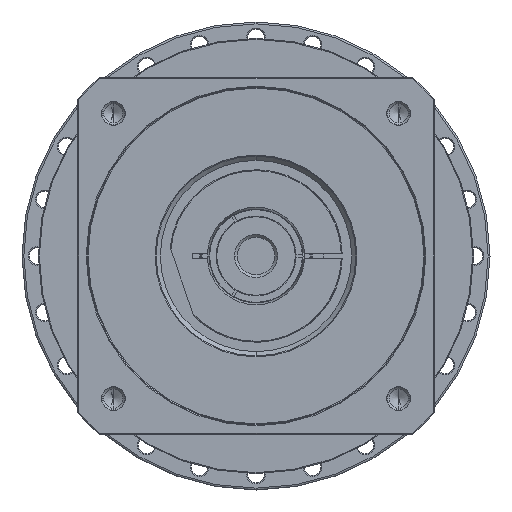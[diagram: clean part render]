
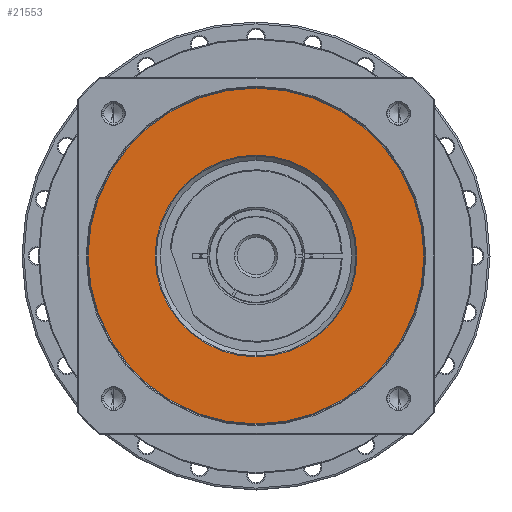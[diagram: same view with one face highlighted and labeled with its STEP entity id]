
A CAD part, left-side view. The second image highlights one B-rep face of the part: STEP entity #21553.
In plain terms, the highlighted planar face has unit normal (-1, 0, 0) as drawn and (0, 0, 1) by its records, which use the part's own axes.
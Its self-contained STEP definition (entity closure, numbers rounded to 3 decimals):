
#20238=CARTESIAN_POINT('',(0.,0.,36.));
#20239=DIRECTION('',(0.,0.,-1.));
#20240=DIRECTION('',(0.,-1.,0.));
#20241=AXIS2_PLACEMENT_3D('',#20238,#20239,#20240);
#20243=CARTESIAN_POINT('',(0.,0.,36.));
#20244=DIRECTION('',(0.,0.,-1.));
#20245=DIRECTION('',(0.,1.,0.));
#20246=AXIS2_PLACEMENT_3D('',#20243,#20244,#20245);
#20248=CARTESIAN_POINT('',(0.,0.,
36.));
#20249=DIRECTION('',(0.,0.,-1.));
#20250=DIRECTION('',(1.,0.,0.));
#20251=AXIS2_PLACEMENT_3D('',#20248,#20249,#20250);
#20253=CARTESIAN_POINT('',(0.,0.,36.));
#20254=DIRECTION('',(0.,0.,-1.));
#20255=DIRECTION('',(-1.,0.,0.));
#20256=AXIS2_PLACEMENT_3D('',#20253,#20254,#20255);
#20837=CARTESIAN_POINT('',(0.,-89.5,36.));
#20838=CARTESIAN_POINT('',(0.,89.5,36.));
#20839=VERTEX_POINT('',#20837);
#20840=VERTEX_POINT('',#20838);
#20873=CARTESIAN_POINT('',(53.75,0.,36.));
#20874=CARTESIAN_POINT('',(-53.75,0.,
36.));
#20875=VERTEX_POINT('',#20873);
#20876=VERTEX_POINT('',#20874);
#21537=CARTESIAN_POINT('',(0.,0.,36.));
#21538=DIRECTION('',(0.,0.,-1.));
#21539=DIRECTION('',(0.,-1.,0.));
#21540=AXIS2_PLACEMENT_3D('',#21537,#21538,#21539);
#21541=PLANE('',#21540);
#21543=ORIENTED_EDGE('',*,*,#21542,.T.);
#21544=ORIENTED_EDGE('',*,*,#21527,.T.);
#21545=EDGE_LOOP('',(#21543,#21544));
#21546=FACE_OUTER_BOUND('',#21545,.F.);
#21548=ORIENTED_EDGE('',*,*,#21547,.F.);
#21550=ORIENTED_EDGE('',*,*,#21549,.F.);
#21551=EDGE_LOOP('',(#21548,#21550));
#21552=FACE_BOUND('',#21551,.F.);
#21553=ADVANCED_FACE('',(#21546,#21552),#21541,.F.);
#20242=CIRCLE('',#20241,89.5);
#20247=CIRCLE('',#20246,89.5);
#20252=CIRCLE('',#20251,53.75);
#20257=CIRCLE('',#20256,53.75);
#21527=EDGE_CURVE('',#20840,#20839,#20247,.T.);
#21542=EDGE_CURVE('',#20839,#20840,#20242,.T.);
#21547=EDGE_CURVE('',#20875,#20876,#20252,.T.);
#21549=EDGE_CURVE('',#20876,#20875,#20257,.T.);
